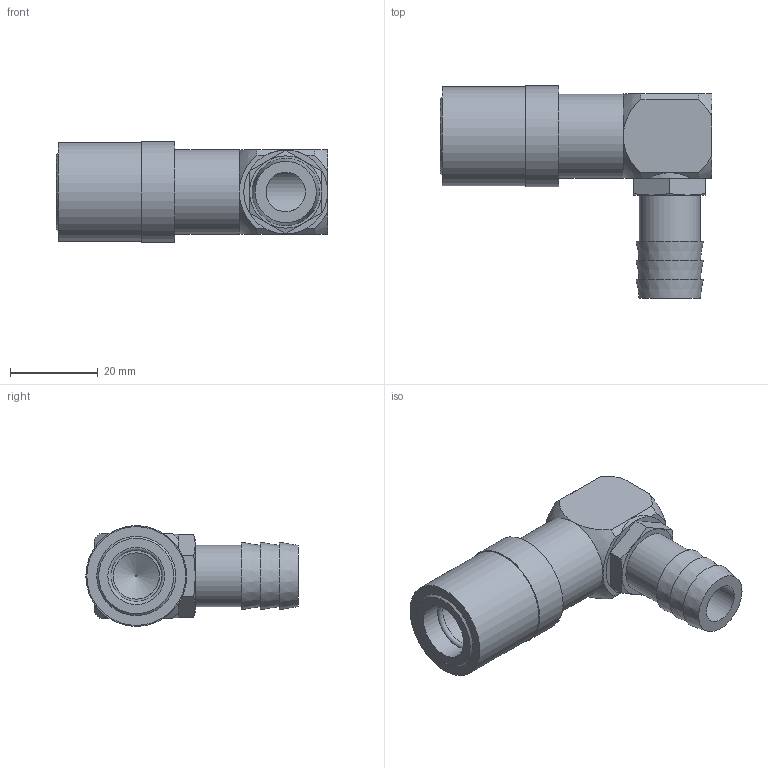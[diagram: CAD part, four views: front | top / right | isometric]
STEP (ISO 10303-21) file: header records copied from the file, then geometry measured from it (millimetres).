
FILE_DESCRIPTION(/* description */ ('STEP AP214'),/* implementation_level */ '2;1');
FILE_NAME(/* name */ 'SK213',/* time_stamp */ '2024-12-07T17:47:25+01:00',/* author */ ('License CC BY-ND 4.0'),/* organization */ ('CADENAS'),/* preprocessor_version */ 'ST-DEVELOPER v19.3',/* originating_system */ 'PARTsolutions',/* authorisation */ ' ');
FILE_SCHEMA (('AUTOMOTIVE_DESIGN {1 0 10303 214 3 1 1}'));
Length unit declared in the file: millimetre
Products named in the file (1): SK213
Bounding box: 62.07 x 48.53 x 23.05 mm (x, y, z)
Volume: 19318.9 mm3; surface area: 9490 mm2
Topology: 1 solids, 1 shells, 56 faces, 123 edges, 78 vertices
Faces by surface type: plane 27, cone 11, cylinder 9, sphere 8, torus 1
Full cylindrical faces by diameter (mm): 9 x1, 10.566 x1, 13 x2, 14 x1, 19.159 x1, 19.304 x1, 22.6 x1, 23.052 x1
Entity records: 1525 total; most frequent: CARTESIAN_POINT 295, DIRECTION 272, ORIENTED_EDGE 210, AXIS2_PLACEMENT_3D 123, EDGE_CURVE 105, EDGE_LOOP 84, FACE_BOUND 84, VERTEX_POINT 75
